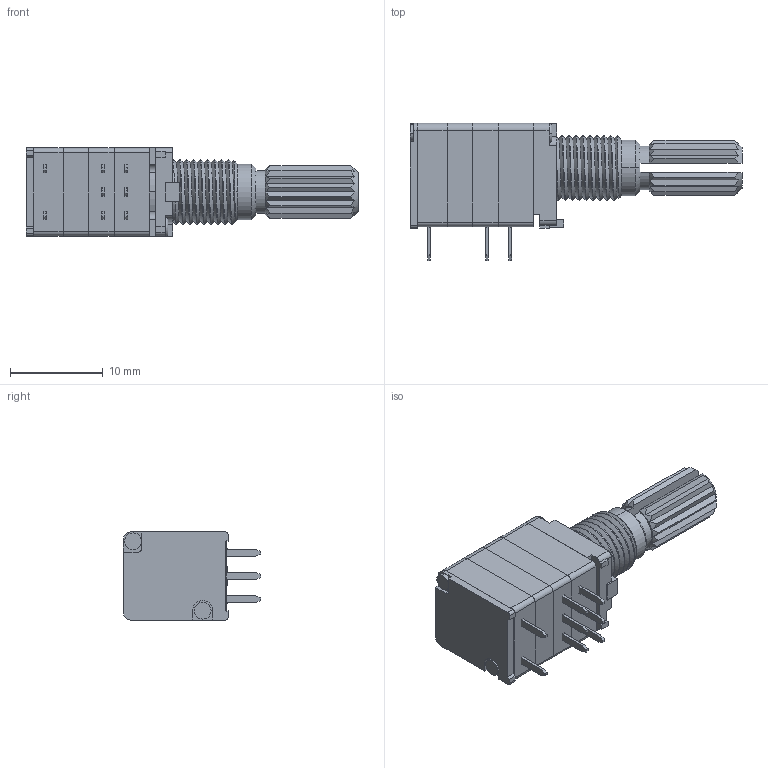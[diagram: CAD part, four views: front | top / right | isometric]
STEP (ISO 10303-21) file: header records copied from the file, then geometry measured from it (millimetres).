
FILE_DESCRIPTION (( 'STEP AP214' ), '1' );
FILE_NAME ('Same_Sky_PTN09S2-H10120K1A.step', '2025-09-08T19:59:18', ( '' ), ( '' ), 'SwSTEP 2.0', 'SolidWorks 2025', '' );
FILE_SCHEMA (( 'AUTOMOTIVE_DESIGN' ));
Length unit declared in the file: inch
Products named in the file (5): K_SHAFT_L20; PTN09S2-H; BUSHING-7S; Same_Sky_PTN09S2-H10120K1A; FIX_PLATE
Assembly tree (4 placements, depth 2):
  Same_Sky_PTN09S2-H10120K1A
    FIX_PLATE
    PTN09S2-H
    BUSHING-7S
    K_SHAFT_L20
Bounding box: 35.8 x 14.8 x 9.5 mm (x, y, z)
Volume: 1702.9 mm3; surface area: 3685.8 mm2
Topology: 18 solids, 23 shells, 722 faces, 1775 edges, 1164 vertices
Faces by surface type: plane 380, cylinder 261, torus 70, cone 8, bspline 3
Entity records: 27800 total; most frequent: CARTESIAN_POINT 6307, DIRECTION 3767, ORIENTED_EDGE 3550, EDGE_CURVE 1775, AXIS2_PLACEMENT_3D 1381, VERTEX_POINT 1164, VECTOR 1005, LINE 1005
